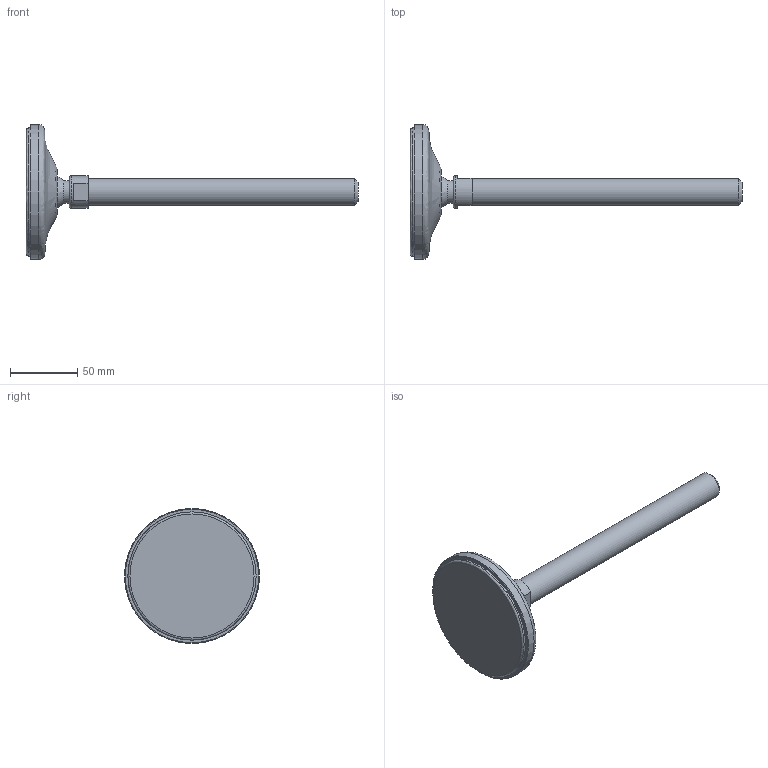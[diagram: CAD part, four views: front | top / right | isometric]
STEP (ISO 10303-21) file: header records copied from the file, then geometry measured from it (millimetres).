
FILE_DESCRIPTION(('STEP AP203'),'2;1');
FILE_NAME('10571.stp','2015-09-23T11:52:22',(''),(''),'2008.1.107','THINKDESIGN','');
FILE_SCHEMA(('CONFIG_CONTROL_DESIGN'));
Length unit declared in the file: millimetre
Bounding box: 246 x 100 x 100 mm (x, y, z)
Volume: 199307.2 mm3; surface area: 51843.9 mm2
Topology: 5 solids, 5 shells, 31 faces, 70 edges, 51 vertices
Faces by surface type: plane 16, bspline 8, cylinder 7
Full cylindrical faces by diameter (mm): 17 x1, 20 x1, 22 x1, 24 x1, 95 x2, 100 x1
Entity records: 1767 total; most frequent: CARTESIAN_POINT 941, DIRECTION 170, ORIENTED_EDGE 140, AXIS2_PLACEMENT_3D 77, EDGE_CURVE 70, CIRCLE 54, VERTEX_POINT 51, EDGE_LOOP 33
